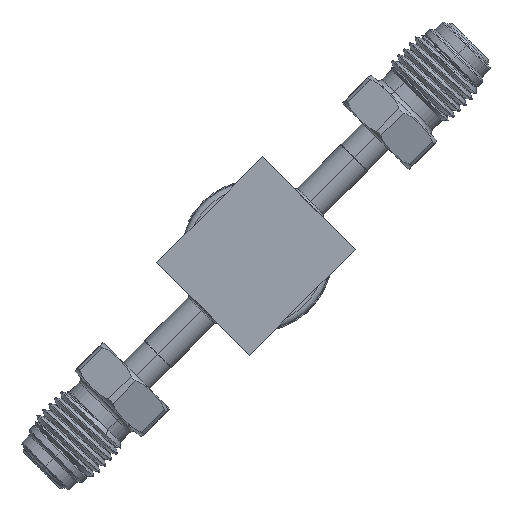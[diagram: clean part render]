
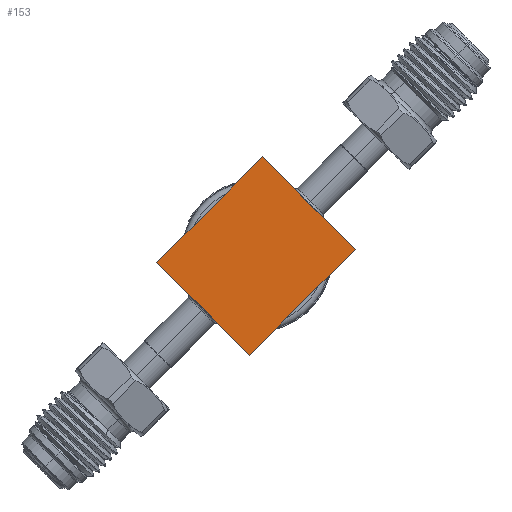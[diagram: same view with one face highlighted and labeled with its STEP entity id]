
A CAD part, front view. The second image highlights one B-rep face of the part: STEP entity #153.
In plain terms, the highlighted planar face has unit normal (0, -1, 0) as drawn and (0, 0, -1) by its records, which use the part's own axes.
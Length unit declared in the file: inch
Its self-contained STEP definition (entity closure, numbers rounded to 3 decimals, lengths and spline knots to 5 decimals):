
#153 = ADVANCED_FACE ( 'NONE', ( #17155 ), #5278, .T. ) ;
#760 = AXIS2_PLACEMENT_3D ( 'NONE', #14566, #2378, #6776 ) ;
#1709 = CARTESIAN_POINT ( 'NONE',  ( -0.5, 0.4375, 0. ) ) ;
#2378 = DIRECTION ( 'NONE',  ( 0., 0., -1. ) ) ;
#2609 = EDGE_CURVE ( 'NONE', #3992, #18483, #2672, .T. ) ;
#2672 = LINE ( 'NONE', #3891, #4949 ) ;
#3891 = CARTESIAN_POINT ( 'NONE',  ( 0.5, -0.4375, 0. ) ) ;
#3992 = VERTEX_POINT ( 'NONE', #14786 ) ;
#4114 = LINE ( 'NONE', #5603, #14584 ) ;
#4949 = VECTOR ( 'NONE', #19408, 39.37008 ) ;
#4957 = EDGE_CURVE ( 'NONE', #3992, #16673, #4114, .T. ) ;
#5095 = CARTESIAN_POINT ( 'NONE',  ( -0.5, -0.4375, 0. ) ) ;
#5225 = ORIENTED_EDGE ( 'NONE', *, *, #18957, .T. ) ;
#5278 = PLANE ( 'NONE',  #760 ) ;
#5603 = CARTESIAN_POINT ( 'NONE',  ( 0.5, -0.4375, 0. ) ) ;
#5695 = EDGE_LOOP ( 'NONE', ( #14090, #5225, #16871, #11848 ) ) ;
#6776 = DIRECTION ( 'NONE',  ( -1., 0., 0. ) ) ;
#8891 = CARTESIAN_POINT ( 'NONE',  ( -0.5, 0.4375, 0. ) ) ;
#8904 = VECTOR ( 'NONE', #10495, 39.37008 ) ;
#10495 = DIRECTION ( 'NONE',  ( 1., 0., 0. ) ) ;
#11174 = DIRECTION ( 'NONE',  ( 0., -1., 0. ) ) ;
#11277 = LINE ( 'NONE', #15853, #15593 ) ;
#11689 = DIRECTION ( 'NONE',  ( -1., 0., 0. ) ) ;
#11848 = ORIENTED_EDGE ( 'NONE', *, *, #4957, .T. ) ;
#14090 = ORIENTED_EDGE ( 'NONE', *, *, #19084, .F. ) ;
#14566 = CARTESIAN_POINT ( 'NONE',  ( -0.5, -0.4375, 0. ) ) ;
#14584 = VECTOR ( 'NONE', #11689, 39.37008 ) ;
#14786 = CARTESIAN_POINT ( 'NONE',  ( 0.5, -0.4375, 0. ) ) ;
#15593 = VECTOR ( 'NONE', #11174, 39.37008 ) ;
#15853 = CARTESIAN_POINT ( 'NONE',  ( -0.5, 0.4375, 0. ) ) ;
#16228 = CARTESIAN_POINT ( 'NONE',  ( 0.5, 0.4375, 0. ) ) ;
#16463 = LINE ( 'NONE', #8891, #8904 ) ;
#16673 = VERTEX_POINT ( 'NONE', #5095 ) ;
#16871 = ORIENTED_EDGE ( 'NONE', *, *, #2609, .F. ) ;
#17155 = FACE_OUTER_BOUND ( 'NONE', #5695, .T. ) ;
#17226 = VERTEX_POINT ( 'NONE', #1709 ) ;
#18483 = VERTEX_POINT ( 'NONE', #16228 ) ;
#18957 = EDGE_CURVE ( 'NONE', #17226, #18483, #16463, .T. ) ;
#19084 = EDGE_CURVE ( 'NONE', #17226, #16673, #11277, .T. ) ;
#19408 = DIRECTION ( 'NONE',  ( 0., 1., 0. ) ) ;
